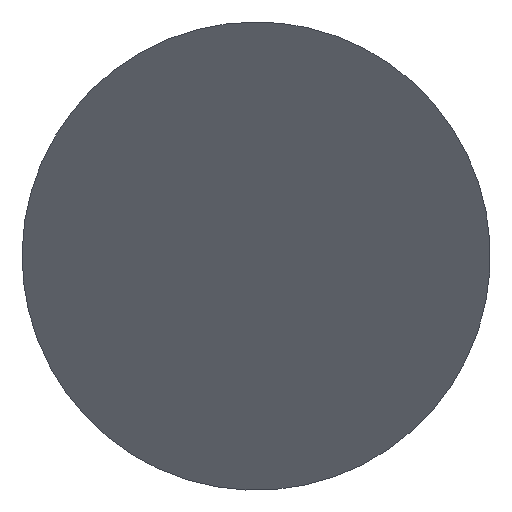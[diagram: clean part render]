
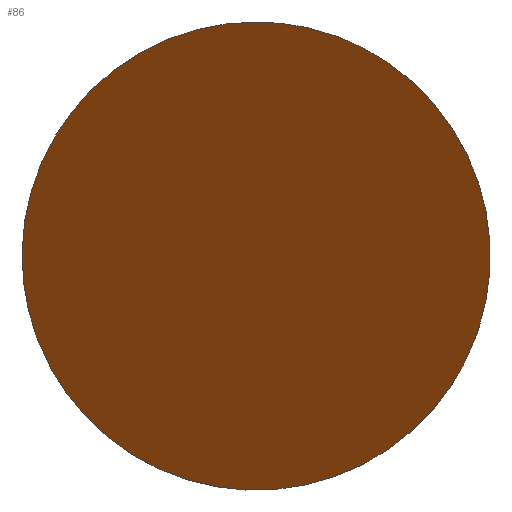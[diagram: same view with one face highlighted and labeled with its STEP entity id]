
A CAD part, left-side view. The second image highlights one B-rep face of the part: STEP entity #86.
In plain terms, the highlighted planar face has unit normal (-0.777, 0, -0.629).
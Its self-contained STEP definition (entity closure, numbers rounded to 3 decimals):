
#42=PLANE('',#82);
#46=ORIENTED_EDGE('',*,*,#52,.T.);
#48=ELLIPSE('',#80,9.651,7.5);
#50=VERTEX_POINT('',#73);
#52=EDGE_CURVE('',#50,#50,#48,.T.);
#56=EDGE_LOOP('',(#46));
#60=FACE_BOUND('',#56,.T.);
#64=DIRECTION('',(-0.777,0.,-0.629));
#65=DIRECTION('',(0.629,0.,-0.777));
#68=DIRECTION('',(-0.777,0.,-0.629));
#69=DIRECTION('',(0.,0.777,0.));
#73=CARTESIAN_POINT('',(-14.124,0.,7.5));
#74=CARTESIAN_POINT('',(-8.051,0.,0.));
#77=CARTESIAN_POINT('',(-256.734,0.,307.099));
#80=AXIS2_PLACEMENT_3D('',#74,#64,#65);
#82=AXIS2_PLACEMENT_3D('',#77,#68,#69);
#86=ADVANCED_FACE('',(#60),#42,.T.);
